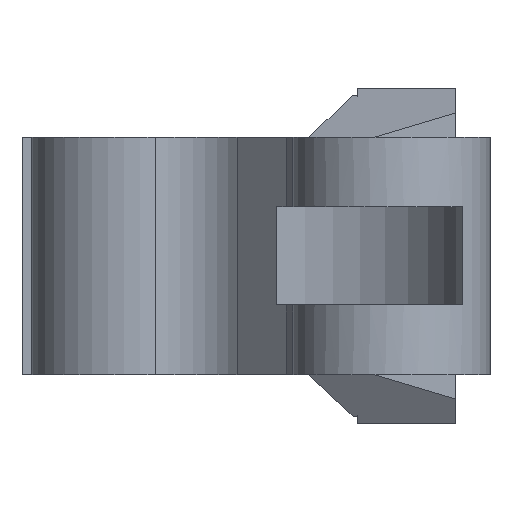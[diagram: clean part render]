
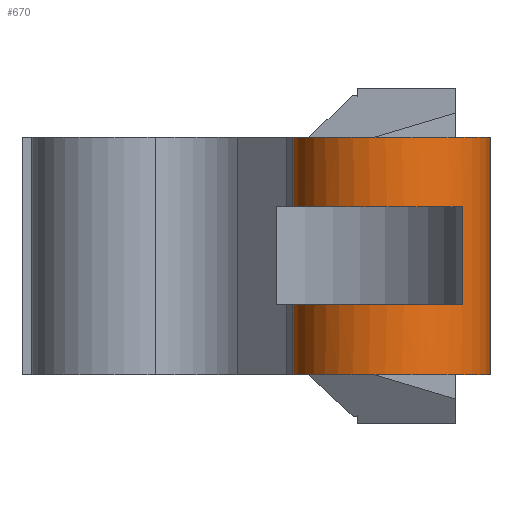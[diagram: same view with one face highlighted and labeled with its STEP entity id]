
A CAD part, front view. The second image highlights one B-rep face of the part: STEP entity #670.
In plain terms, the highlighted cylindrical face has radius 6.02 mm (diameter 12.041 mm), a partial arc.
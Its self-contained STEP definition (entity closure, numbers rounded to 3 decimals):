
#20 = DIRECTION ( 'NONE',  ( -0.032, 0.999, 0. ) ) ;
#36 = ORIENTED_EDGE ( 'NONE', *, *, #1161, .F. ) ;
#53 = CARTESIAN_POINT ( 'NONE',  ( 9.044, -21.135, -14.489 ) ) ;
#59 = VECTOR ( 'NONE', #1095, 1000. ) ;
#63 = DIRECTION ( 'NONE',  ( 0.032, -0.999, 0. ) ) ;
#93 = DIRECTION ( 'NONE',  ( 0., 0., -1. ) ) ;
#99 = ORIENTED_EDGE ( 'NONE', *, *, #605, .T. ) ;
#107 = LINE ( 'NONE', #1504, #294 ) ;
#108 = AXIS2_PLACEMENT_3D ( 'NONE', #641, #1155, #20 ) ;
#157 = VERTEX_POINT ( 'NONE', #1619 ) ;
#175 = CARTESIAN_POINT ( 'NONE',  ( 14.707, -23.179, -14.489 ) ) ;
#176 = CARTESIAN_POINT ( 'NONE',  ( 19.823, -20.005, -14.489 ) ) ;
#191 = CIRCLE ( 'NONE', #108, 6.02 ) ;
#204 = VERTEX_POINT ( 'NONE', #437 ) ;
#209 = CARTESIAN_POINT ( 'NONE',  ( 19.823, -20.005, 0.011 ) ) ;
#210 = EDGE_CURVE ( 'NONE', #998, #204, #1425, .T. ) ;
#216 = DIRECTION ( 'NONE',  ( -0.032, 0.999, 0. ) ) ;
#221 = CARTESIAN_POINT ( 'NONE',  ( 9.044, -21.135, 0.011 ) ) ;
#245 = EDGE_CURVE ( 'NONE', #743, #261, #895, .T. ) ;
#261 = VERTEX_POINT ( 'NONE', #209 ) ;
#290 = DIRECTION ( 'NONE',  ( 0., 0., 1. ) ) ;
#294 = VECTOR ( 'NONE', #371, 1000. ) ;
#304 = ORIENTED_EDGE ( 'NONE', *, *, #1182, .T. ) ;
#337 = CYLINDRICAL_SURFACE ( 'NONE', #977, 6.02 ) ;
#343 = AXIS2_PLACEMENT_3D ( 'NONE', #1196, #93, #216 ) ;
#371 = DIRECTION ( 'NONE',  ( 0., 0., 1. ) ) ;
#429 = DIRECTION ( 'NONE',  ( 0., 0., 1. ) ) ;
#437 = CARTESIAN_POINT ( 'NONE',  ( 9.044, -21.135, -4.239 ) ) ;
#438 = ORIENTED_EDGE ( 'NONE', *, *, #648, .F. ) ;
#518 = ORIENTED_EDGE ( 'NONE', *, *, #245, .F. ) ;
#520 = CARTESIAN_POINT ( 'NONE',  ( 9.044, -21.135, -10.239 ) ) ;
#552 = EDGE_CURVE ( 'NONE', #157, #560, #191, .T. ) ;
#556 = VECTOR ( 'NONE', #1468, 1000. ) ;
#560 = VERTEX_POINT ( 'NONE', #520 ) ;
#564 = CARTESIAN_POINT ( 'NONE',  ( 14.707, -23.179, 0.011 ) ) ;
#590 = CARTESIAN_POINT ( 'NONE',  ( 9.044, -21.135, -14.489 ) ) ;
#605 = EDGE_CURVE ( 'NONE', #998, #157, #1594, .T. ) ;
#641 = CARTESIAN_POINT ( 'NONE',  ( 14.707, -23.179, -10.239 ) ) ;
#648 = EDGE_CURVE ( 'NONE', #751, #560, #1084, .T. ) ;
#670 = ADVANCED_FACE ( 'NONE', ( #1452 ), #337, .T. ) ;
#684 = ORIENTED_EDGE ( 'NONE', *, *, #210, .F. ) ;
#743 = VERTEX_POINT ( 'NONE', #221 ) ;
#751 = VERTEX_POINT ( 'NONE', #590 ) ;
#815 = AXIS2_PLACEMENT_3D ( 'NONE', #564, #1228, #63 ) ;
#837 = CARTESIAN_POINT ( 'NONE',  ( 14.707, -23.179, -14.489 ) ) ;
#895 = CIRCLE ( 'NONE', #815, 6.02 ) ;
#915 = ORIENTED_EDGE ( 'NONE', *, *, #552, .T. ) ;
#947 = CARTESIAN_POINT ( 'NONE',  ( 19.042, -27.357, -7.239 ) ) ;
#960 = EDGE_LOOP ( 'NONE', ( #684, #99, #915, #438, #1487, #304, #518, #36 ) ) ;
#977 = AXIS2_PLACEMENT_3D ( 'NONE', #837, #429, #1438 ) ;
#998 = VERTEX_POINT ( 'NONE', #1208 ) ;
#1021 = VERTEX_POINT ( 'NONE', #176 ) ;
#1084 = LINE ( 'NONE', #53, #556 ) ;
#1095 = DIRECTION ( 'NONE',  ( 0., 0., -1. ) ) ;
#1155 = DIRECTION ( 'NONE',  ( 0., 0., -1. ) ) ;
#1158 = DIRECTION ( 'NONE',  ( 0.032, -0.999, 0. ) ) ;
#1161 = EDGE_CURVE ( 'NONE', #204, #743, #107, .T. ) ;
#1163 = CARTESIAN_POINT ( 'NONE',  ( 19.823, -20.005, -14.489 ) ) ;
#1174 = AXIS2_PLACEMENT_3D ( 'NONE', #175, #1441, #1158 ) ;
#1181 = LINE ( 'NONE', #1163, #1222 ) ;
#1182 = EDGE_CURVE ( 'NONE', #1021, #261, #1181, .T. ) ;
#1196 = CARTESIAN_POINT ( 'NONE',  ( 14.707, -23.179, -4.239 ) ) ;
#1208 = CARTESIAN_POINT ( 'NONE',  ( 19.042, -27.357, -4.239 ) ) ;
#1222 = VECTOR ( 'NONE', #290, 1000. ) ;
#1228 = DIRECTION ( 'NONE',  ( 0., 0., 1. ) ) ;
#1425 = CIRCLE ( 'NONE', #343, 6.02 ) ;
#1438 = DIRECTION ( 'NONE',  ( -0.032, 0.999, 0. ) ) ;
#1441 = DIRECTION ( 'NONE',  ( 0., 0., 1. ) ) ;
#1452 = FACE_OUTER_BOUND ( 'NONE', #960, .T. ) ;
#1468 = DIRECTION ( 'NONE',  ( 0., 0., 1. ) ) ;
#1479 = CIRCLE ( 'NONE', #1174, 6.02 ) ;
#1486 = EDGE_CURVE ( 'NONE', #751, #1021, #1479, .T. ) ;
#1487 = ORIENTED_EDGE ( 'NONE', *, *, #1486, .T. ) ;
#1504 = CARTESIAN_POINT ( 'NONE',  ( 9.044, -21.135, -14.489 ) ) ;
#1594 = LINE ( 'NONE', #947, #59 ) ;
#1619 = CARTESIAN_POINT ( 'NONE',  ( 19.042, -27.357, -10.239 ) ) ;
